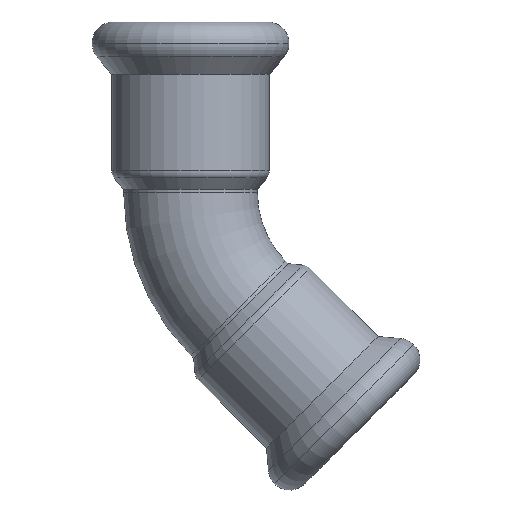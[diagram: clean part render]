
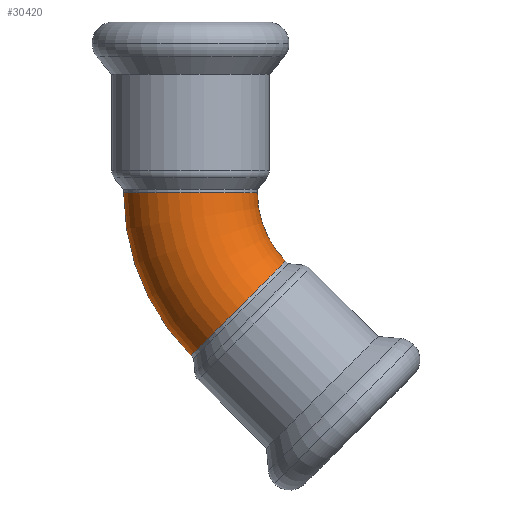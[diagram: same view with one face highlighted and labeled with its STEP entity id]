
A CAD part, top view. The second image highlights one B-rep face of the part: STEP entity #30420.
In plain terms, the highlighted toroidal (fillet/blend) face has major radius 22 mm and minor radius 9 mm.
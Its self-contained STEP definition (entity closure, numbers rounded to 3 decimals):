
#14190=CARTESIAN_POINT('',(-193.976,42.134,
0.));
#14200=VERTEX_POINT('',#14190);
#14340=CARTESIAN_POINT('',(-211.976,42.134,0.));
#14350=VERTEX_POINT('',#14340);
#14430=CARTESIAN_POINT('',(-180.976,42.134,0.));
#14440=DIRECTION('',(0.,0.,1.));
#14450=DIRECTION('',(-1.,0.,0.));
#14460=AXIS2_PLACEMENT_3D('',#14430,#14440,#14450);
#14470=TOROIDAL_SURFACE('',#14460,22.,9.);
#14480=CARTESIAN_POINT('',(-196.533,26.577,0.));
#14490=DIRECTION('',(0.707,-0.707,0.));
#14500=DIRECTION('',(-0.707,-0.707,0.));
#14510=AXIS2_PLACEMENT_3D('',#14480,#14490,#14500);
#14520=CIRCLE('',#14510,9.);
#14550=CARTESIAN_POINT('',(-190.169,32.941,
0.));
#14560=VERTEX_POINT('',#14550);
#14590=CARTESIAN_POINT('',(-180.976,42.134,
0.));
#14600=DIRECTION('',(0.,0.,1.));
#14610=DIRECTION('',(-1.,0.,0.));
#14620=AXIS2_PLACEMENT_3D('',#14590,#14600,#14610);
#14630=CIRCLE('',#14620,13.);
#14640=EDGE_CURVE('',#14200,#14560,#14630,.T.);
#14680=CARTESIAN_POINT('',(-180.976,42.134,
0.));
#14690=DIRECTION('',(0.,0.,1.));
#14700=DIRECTION('',(-1.,0.,0.));
#14710=AXIS2_PLACEMENT_3D('',#14680,#14690,#14700);
#14720=CIRCLE('',#14710,31.);
#14730=CARTESIAN_POINT('',(-202.897,20.213,
0.));
#14740=VERTEX_POINT('',#14730);
#14750=EDGE_CURVE('',#14350,#14740,#14720,.T.);
#29720=EDGE_CURVE('',#14560,#14740,#14520,.T.);
#30300=ORIENTED_EDGE('',*,*,#29720,.F.);
#30310=ORIENTED_EDGE('',*,*,#14750,.T.);
#30320=CARTESIAN_POINT('',(-202.976,42.134,0.));
#30330=DIRECTION('',(0.,-1.,0.));
#30340=DIRECTION('',(-1.,0.,0.));
#30350=AXIS2_PLACEMENT_3D('',#30320,#30330,#30340);
#30360=CIRCLE('',#30350,9.);
#30370=EDGE_CURVE('',#14200,#14350,#30360,.T.);
#30380=ORIENTED_EDGE('',*,*,#30370,.T.);
#30390=ORIENTED_EDGE('',*,*,#14640,.F.);
#30400=EDGE_LOOP('',(#30390,#30380,#30310,#30300));
#30410=FACE_OUTER_BOUND('',#30400,.T.);
#30420=ADVANCED_FACE('',(#30410),#14470,.T.);
